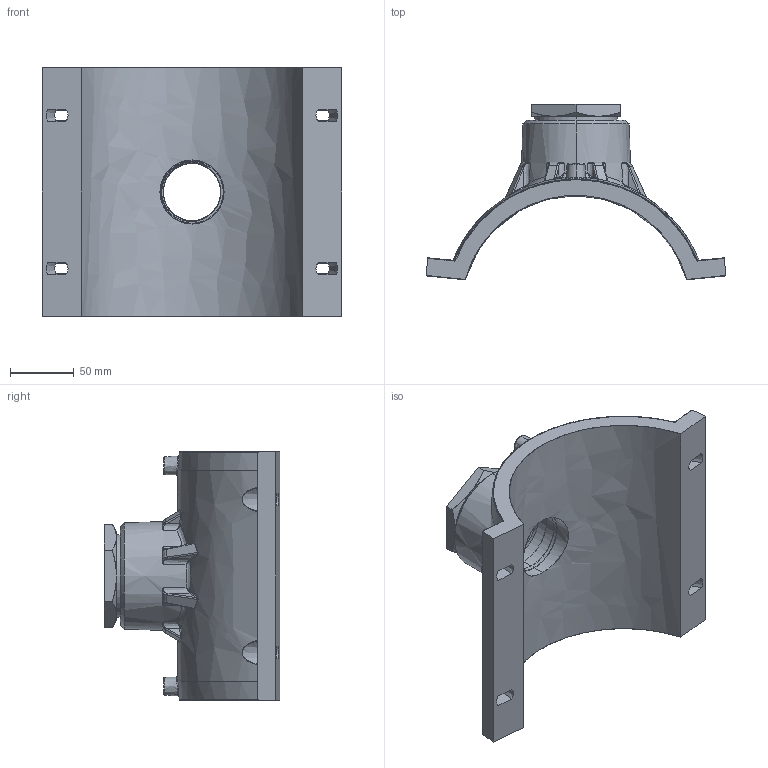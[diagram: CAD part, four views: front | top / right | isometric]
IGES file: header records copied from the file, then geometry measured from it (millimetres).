
Start section:  PTC IGES file: vam-rg_d180_1_1_2_01.igs
Global section: file name: vam-rg_d180_1_1_2_01.igs; native system: Pro/ENGINEER by Parametric Technology Corporation; preprocessor: 2011490; author: mtunjic; organization: Unknown; date: 20130909.104535; units: millimetre
Bounding box: 235 x 137.5 x 195 mm (x, y, z)
Surface area: 160055.5 mm2 (no closed solid volume)
Topology: 0 solids, 0 shells, 471 faces, 2350 edges, 2350 vertices
Faces by surface type: bspline 471
